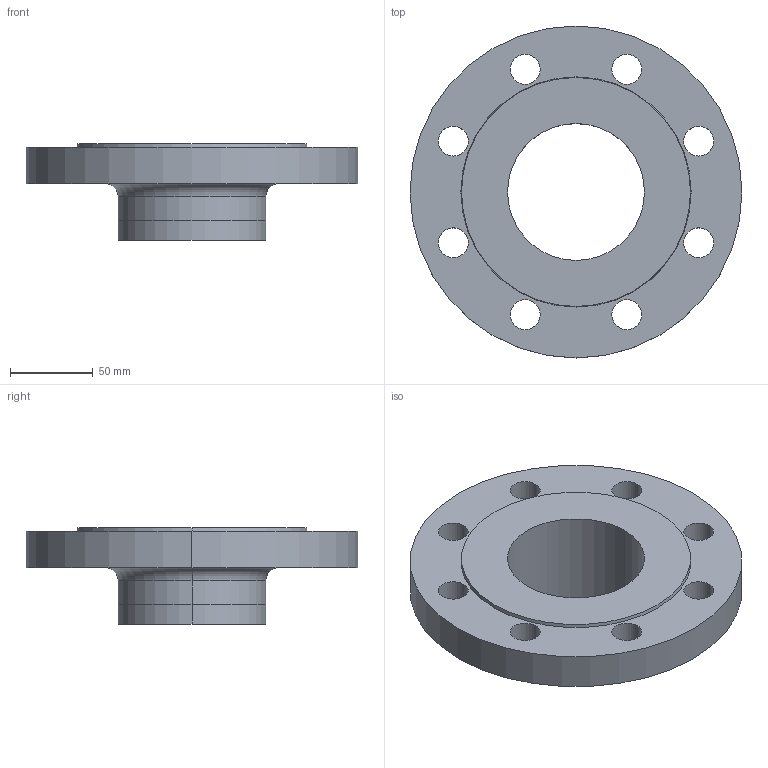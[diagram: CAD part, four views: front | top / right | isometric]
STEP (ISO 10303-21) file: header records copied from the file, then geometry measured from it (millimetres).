
FILE_DESCRIPTION (( 'STEP AP214' ), '1' );
FILE_NAME ('PN40 DN80 Type 11 - Type B Face.STEP', '2019-01-01T19:43:03', ( '' ), ( '' ), 'SwSTEP 2.0', 'SolidWorks 2019', '' );
FILE_SCHEMA (( 'AUTOMOTIVE_DESIGN' ));
Length unit declared in the file: millimetre
Products named in the file (1): PN40 DN80 Type 11 - Type B Face
Bounding box: 200 x 200 x 58 mm (x, y, z)
Volume: 581633.1 mm3; surface area: 96161.6 mm2
Topology: 1 solids, 1 shells, 34 faces, 84 edges, 54 vertices
Faces by surface type: cylinder 22, cone 4, torus 4, plane 4
Entity records: 1108 total; most frequent: DIRECTION 212, CARTESIAN_POINT 173, ORIENTED_EDGE 168, AXIS2_PLACEMENT_3D 93, EDGE_CURVE 84, CIRCLE 58, VERTEX_POINT 54, EDGE_LOOP 54
